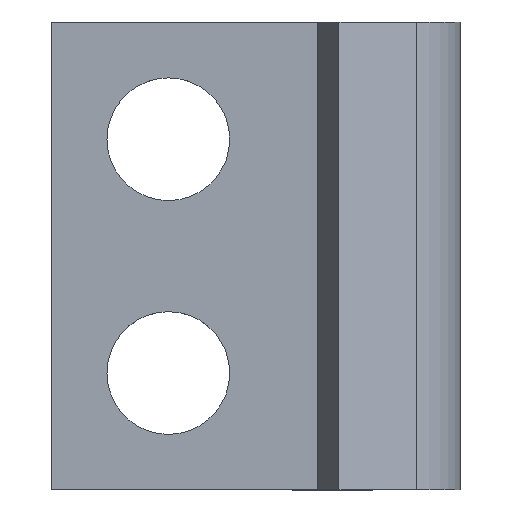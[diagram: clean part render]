
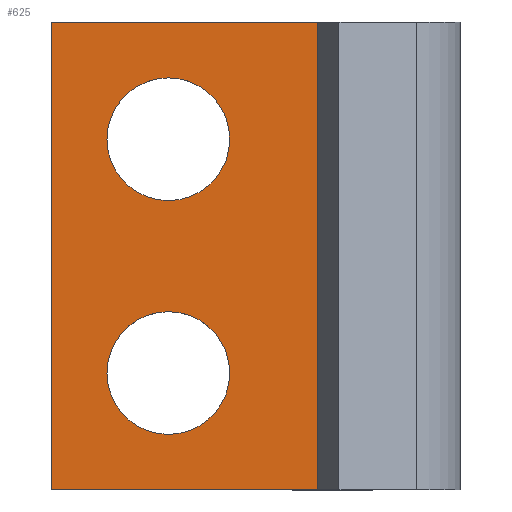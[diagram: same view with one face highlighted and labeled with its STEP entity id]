
A CAD part, top view. The second image highlights one B-rep face of the part: STEP entity #625.
In plain terms, the highlighted planar face has unit normal (0, 0, 1).
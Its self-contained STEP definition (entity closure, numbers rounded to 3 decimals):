
#143=CARTESIAN_POINT('',(6.1,5.5,0.75));
#144=VERTEX_POINT('',#143);
#160=CARTESIAN_POINT('',(1.9,5.5,0.75));
#161=VERTEX_POINT('',#160);
#168=CARTESIAN_POINT('',(4.0,5.5,0.75));
#169=DIRECTION('',(0.0,0.0,-1.0));
#170=DIRECTION('',(1.0,0.0,0.0));
#171=AXIS2_PLACEMENT_3D('',#168,#169,#170);
#172=CIRCLE('',#171,2.1);
#173=EDGE_CURVE('',#144,#161,#172,.T.);
#185=CARTESIAN_POINT('',(-1.9,5.5,0.75));
#186=VERTEX_POINT('',#185);
#202=CARTESIAN_POINT('',(-6.1,5.5,0.75));
#203=VERTEX_POINT('',#202);
#210=CARTESIAN_POINT('',(-4.,5.5,0.75));
#211=DIRECTION('',(0.0,0.0,-1.0));
#212=DIRECTION('',(1.0,0.0,0.0));
#213=AXIS2_PLACEMENT_3D('',#210,#211,#212);
#214=CIRCLE('',#213,2.1);
#215=EDGE_CURVE('',#186,#203,#214,.T.);
#381=CARTESIAN_POINT('',(8.0,9.5,0.75));
#382=VERTEX_POINT('',#381);
#389=CARTESIAN_POINT('',(8.,-1.5,0.75));
#390=VERTEX_POINT('',#389);
#391=CARTESIAN_POINT('',(8.0,9.5,0.75));
#392=DIRECTION('',(0.0,-1.0,0.0));
#393=VECTOR('',#392,11.);
#394=LINE('',#391,#393);
#395=EDGE_CURVE('',#382,#390,#394,.T.);
#432=CARTESIAN_POINT('',(-8.0,-1.5,0.75));
#433=VERTEX_POINT('',#432);
#434=CARTESIAN_POINT('',(-8.0,-1.5,0.75));
#435=DIRECTION('',(1.0,0.0,0.0));
#436=VECTOR('',#435,16.0);
#437=LINE('',#434,#436);
#438=EDGE_CURVE('',#433,#390,#437,.T.);
#500=CARTESIAN_POINT('',(-4.,5.5,0.75));
#501=DIRECTION('',(0.0,0.0,-1.0));
#502=DIRECTION('',(1.0,0.0,0.0));
#503=AXIS2_PLACEMENT_3D('',#500,#501,#502);
#504=CIRCLE('',#503,2.1);
#505=EDGE_CURVE('',#203,#186,#504,.T.);
#518=CARTESIAN_POINT('',(4.0,5.5,0.75));
#519=DIRECTION('',(0.0,0.0,-1.0));
#520=DIRECTION('',(1.0,0.0,0.0));
#521=AXIS2_PLACEMENT_3D('',#518,#519,#520);
#522=CIRCLE('',#521,2.1);
#523=EDGE_CURVE('',#161,#144,#522,.T.);
#535=CARTESIAN_POINT('',(-8.0,9.5,0.75));
#536=VERTEX_POINT('',#535);
#537=CARTESIAN_POINT('',(-8.0,9.5,0.75));
#538=DIRECTION('',(1.0,0.0,0.0));
#539=VECTOR('',#538,16.0);
#540=LINE('',#537,#539);
#541=EDGE_CURVE('',#536,#382,#540,.T.);
#583=CARTESIAN_POINT('',(-8.0,-1.5,0.75));
#584=DIRECTION('',(0.0,1.0,0.0));
#585=VECTOR('',#584,11.);
#586=LINE('',#583,#585);
#587=EDGE_CURVE('',#433,#536,#586,.T.);
#606=CARTESIAN_POINT('',(0.,0.0,0.75));
#607=DIRECTION('',(0.0,0.0,1.0));
#608=DIRECTION('',(1.0,0.0,0.0));
#609=AXIS2_PLACEMENT_3D('',#606,#607,#608);
#610=PLANE('',#609);
#611=ORIENTED_EDGE('',*,*,#438,.T.);
#612=ORIENTED_EDGE('',*,*,#395,.F.);
#613=ORIENTED_EDGE('',*,*,#541,.F.);
#614=ORIENTED_EDGE('',*,*,#587,.F.);
#615=EDGE_LOOP('',(#611,#612,#613,#614));
#616=FACE_OUTER_BOUND('',#615,.T.);
#617=ORIENTED_EDGE('',*,*,#215,.T.);
#618=ORIENTED_EDGE('',*,*,#505,.T.);
#619=EDGE_LOOP('',(#617,#618));
#620=FACE_BOUND('',#619,.T.);
#621=ORIENTED_EDGE('',*,*,#173,.T.);
#622=ORIENTED_EDGE('',*,*,#523,.T.);
#623=EDGE_LOOP('',(#621,#622));
#624=FACE_BOUND('',#623,.T.);
#625=ADVANCED_FACE('',(#616,#620,#624),#610,.T.);
